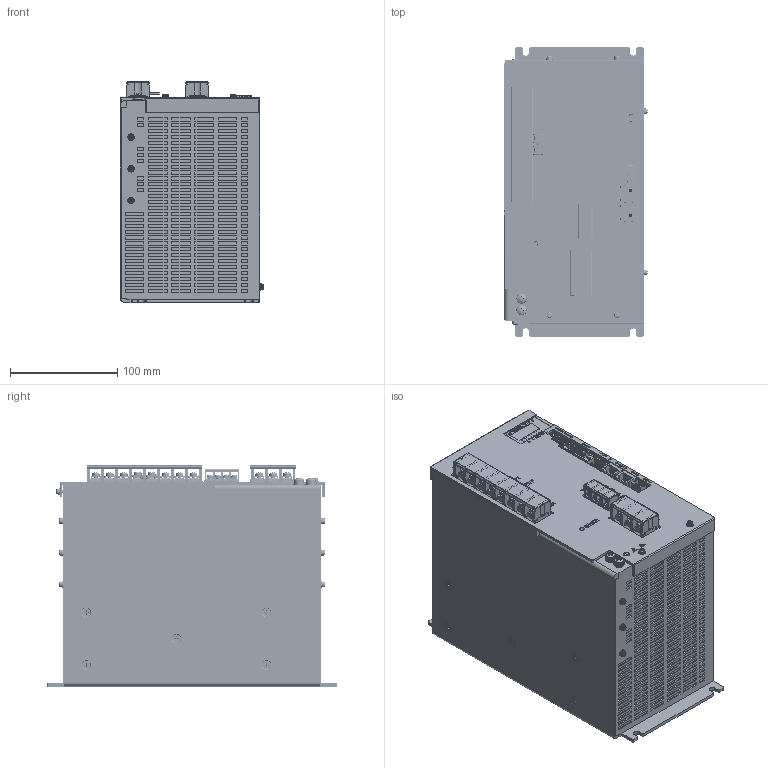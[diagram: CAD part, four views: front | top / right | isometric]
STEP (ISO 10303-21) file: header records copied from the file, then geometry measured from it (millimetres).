
FILE_DESCRIPTION (( 'STEP AP203' ), '1' );
FILE_NAME ('NCR-VD_332#SX-008610-00-01_STO.STEP', '2025-11-25T02:01:53', ( '' ), ( '' ), 'SwSTEP 2.0', 'SolidWorks 2024', '' );
FILE_SCHEMA (( 'CONFIG_CONTROL_DESIGN' ));
Products named in the file (1): NCR-VD_332#SX-008610-00-01_STO
Bounding box: 133.45 x 270 x 205.8 mm (x, y, z)
Volume: 5965682 mm3; surface area: 289242.6 mm2
Topology: 4 solids, 70 shells, 10539 faces, 29236 edges, 19294 vertices
Faces by surface type: plane 8642, cylinder 1100, bspline 499, cone 206, torus 62, sphere 30
Entity records: 359352 total; most frequent: CARTESIAN_POINT 91115, ORIENTED_EDGE 58440, DIRECTION 50515, EDGE_CURVE 29220, LINE 24251, VECTOR 24251, VERTEX_POINT 19294, AXIS2_PLACEMENT_3D 13132
